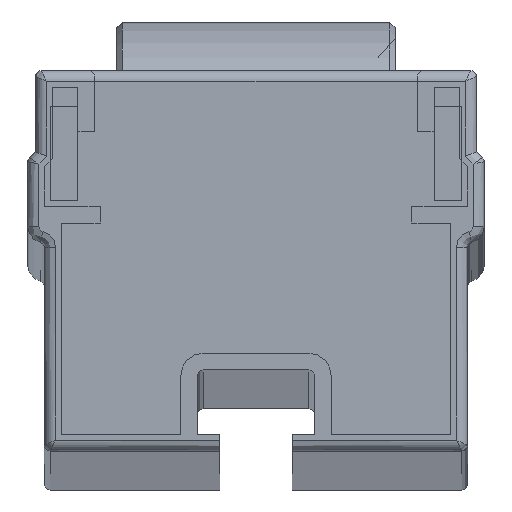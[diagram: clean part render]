
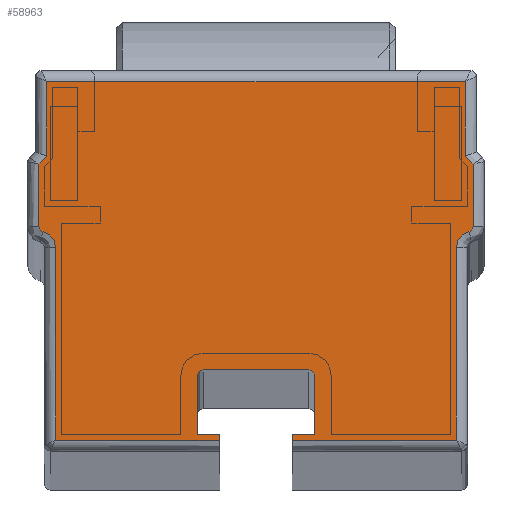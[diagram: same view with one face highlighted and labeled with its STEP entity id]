
A CAD part, top view. The second image highlights one B-rep face of the part: STEP entity #58963.
In plain terms, the highlighted planar face has unit normal (0, 0, 1).
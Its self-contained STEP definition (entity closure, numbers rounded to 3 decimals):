
#1156=CIRCLE('',#62720,1.5);
#1159=CIRCLE('',#62723,0.5);
#1165=CIRCLE('',#62746,0.5);
#1168=CIRCLE('',#62750,1.5);
#1172=CIRCLE('',#62760,0.5);
#1173=CIRCLE('',#62761,0.5);
#6495=FACE_OUTER_BOUND('',#10079,.T.);
#10079=EDGE_LOOP('',(#39628,#39629,#39630,#39631,#39632,#39633,#39634,#39635,
#39636,#39637,#39638,#39639,#39640,#39641,#39642,#39643,#39644,#39645,#39646,
#39647,#39648,#39649,#39650,#39651));
#13993=LINE('',#90693,#19131);
#13996=LINE('',#90702,#19134);
#13997=LINE('',#90724,#19135);
#13999=LINE('',#90798,#19137);
#14002=LINE('',#90804,#19140);
#14003=LINE('',#90806,#19141);
#14005=LINE('',#90810,#19143);
#14008=LINE('',#90816,#19146);
#14010=LINE('',#90822,#19148);
#14011=LINE('',#90844,#19149);
#14014=LINE('',#90851,#19152);
#14019=LINE('',#90864,#19157);
#14022=LINE('',#90870,#19160);
#14023=LINE('',#90872,#19161);
#14024=LINE('',#90874,#19162);
#14025=LINE('',#90878,#19163);
#14026=LINE('',#90882,#19164);
#14027=LINE('',#90883,#19165);
#19131=VECTOR('',#70468,10.);
#19134=VECTOR('',#70477,10.);
#19135=VECTOR('',#70494,10.);
#19137=VECTOR('',#70518,10.);
#19140=VECTOR('',#70525,10.);
#19141=VECTOR('',#70528,10.);
#19143=VECTOR('',#70532,10.);
#19146=VECTOR('',#70539,10.);
#19148=VECTOR('',#70545,10.);
#19149=VECTOR('',#70562,10.);
#19152=VECTOR('',#70569,10.);
#19157=VECTOR('',#70582,10.);
#19160=VECTOR('',#70587,10.);
#19161=VECTOR('',#70588,10.);
#19162=VECTOR('',#70589,10.);
#19163=VECTOR('',#70592,10.);
#19164=VECTOR('',#70595,10.);
#19165=VECTOR('',#70596,10.);
#24241=VERTEX_POINT('',#90597);
#24245=VERTEX_POINT('',#90625);
#24248=VERTEX_POINT('',#90651);
#24252=VERTEX_POINT('',#90684);
#24255=VERTEX_POINT('',#90692);
#24258=VERTEX_POINT('',#90700);
#24260=VERTEX_POINT('',#90705);
#24262=VERTEX_POINT('',#90719);
#24265=VERTEX_POINT('',#90754);
#24270=VERTEX_POINT('',#90789);
#24273=VERTEX_POINT('',#90797);
#24275=VERTEX_POINT('',#90809);
#24278=VERTEX_POINT('',#90820);
#24280=VERTEX_POINT('',#90833);
#24282=VERTEX_POINT('',#90839);
#24284=VERTEX_POINT('',#90849);
#24288=VERTEX_POINT('',#90863);
#24290=VERTEX_POINT('',#90869);
#24291=VERTEX_POINT('',#90871);
#24292=VERTEX_POINT('',#90873);
#24293=VERTEX_POINT('',#90875);
#24294=VERTEX_POINT('',#90877);
#24295=VERTEX_POINT('',#90879);
#24296=VERTEX_POINT('',#90881);
#30297=EDGE_CURVE('',#24252,#24255,#13993,.T.);
#30302=EDGE_CURVE('',#24258,#24252,#13996,.T.);
#30304=EDGE_CURVE('',#24260,#24258,#1156,.T.);
#30307=EDGE_CURVE('',#24262,#24260,#1159,.T.);
#30309=EDGE_CURVE('',#24248,#24262,#13997,.T.);
#30321=EDGE_CURVE('',#24270,#24273,#13999,.T.);
#30325=EDGE_CURVE('',#24273,#24248,#14002,.T.);
#30326=EDGE_CURVE('',#24265,#24270,#14003,.T.);
#30328=EDGE_CURVE('',#24245,#24275,#14005,.T.);
#30332=EDGE_CURVE('',#24275,#24265,#14008,.T.);
#30335=EDGE_CURVE('',#24278,#24245,#14010,.T.);
#30337=EDGE_CURVE('',#24280,#24278,#1165,.T.);
#30340=EDGE_CURVE('',#24282,#24280,#1168,.T.);
#30342=EDGE_CURVE('',#24241,#24282,#14011,.T.);
#30346=EDGE_CURVE('',#24284,#24241,#14014,.T.);
#30352=EDGE_CURVE('',#24288,#24255,#14019,.T.);
#30355=EDGE_CURVE('',#24284,#24290,#14022,.T.);
#30356=EDGE_CURVE('',#24290,#24291,#14023,.T.);
#30357=EDGE_CURVE('',#24291,#24292,#14024,.T.);
#30358=EDGE_CURVE('',#24292,#24293,#1172,.T.);
#30359=EDGE_CURVE('',#24293,#24294,#14025,.T.);
#30360=EDGE_CURVE('',#24294,#24295,#1173,.T.);
#30361=EDGE_CURVE('',#24295,#24296,#14026,.T.);
#30362=EDGE_CURVE('',#24296,#24288,#14027,.T.);
#39628=ORIENTED_EDGE('',*,*,#30297,.F.);
#39629=ORIENTED_EDGE('',*,*,#30302,.F.);
#39630=ORIENTED_EDGE('',*,*,#30304,.F.);
#39631=ORIENTED_EDGE('',*,*,#30307,.F.);
#39632=ORIENTED_EDGE('',*,*,#30309,.F.);
#39633=ORIENTED_EDGE('',*,*,#30325,.F.);
#39634=ORIENTED_EDGE('',*,*,#30321,.F.);
#39635=ORIENTED_EDGE('',*,*,#30326,.F.);
#39636=ORIENTED_EDGE('',*,*,#30332,.F.);
#39637=ORIENTED_EDGE('',*,*,#30328,.F.);
#39638=ORIENTED_EDGE('',*,*,#30335,.F.);
#39639=ORIENTED_EDGE('',*,*,#30337,.F.);
#39640=ORIENTED_EDGE('',*,*,#30340,.F.);
#39641=ORIENTED_EDGE('',*,*,#30342,.F.);
#39642=ORIENTED_EDGE('',*,*,#30346,.F.);
#39643=ORIENTED_EDGE('',*,*,#30355,.T.);
#39644=ORIENTED_EDGE('',*,*,#30356,.T.);
#39645=ORIENTED_EDGE('',*,*,#30357,.T.);
#39646=ORIENTED_EDGE('',*,*,#30358,.T.);
#39647=ORIENTED_EDGE('',*,*,#30359,.T.);
#39648=ORIENTED_EDGE('',*,*,#30360,.T.);
#39649=ORIENTED_EDGE('',*,*,#30361,.T.);
#39650=ORIENTED_EDGE('',*,*,#30362,.T.);
#39651=ORIENTED_EDGE('',*,*,#30352,.T.);
#57307=PLANE('',#62759);
#58963=ADVANCED_FACE('',(#6495),#57307,.T.);
#62720=AXIS2_PLACEMENT_3D('',#90707,#70482,#70483);
#62723=AXIS2_PLACEMENT_3D('',#90721,#70488,#70489);
#62746=AXIS2_PLACEMENT_3D('',#90835,#70548,#70549);
#62750=AXIS2_PLACEMENT_3D('',#90841,#70556,#70557);
#62759=AXIS2_PLACEMENT_3D('',#90868,#70585,#70586);
#62760=AXIS2_PLACEMENT_3D('',#90876,#70590,#70591);
#62761=AXIS2_PLACEMENT_3D('',#90880,#70593,#70594);
#70468=DIRECTION('',(-1.,0.,0.));
#70477=DIRECTION('',(0.,-1.,0.));
#70482=DIRECTION('center_axis',(0.,0.,1.));
#70483=DIRECTION('ref_axis',(-0.791,0.612,0.));
#70488=DIRECTION('center_axis',(0.,0.,-1.));
#70489=DIRECTION('ref_axis',(0.791,-0.612,0.));
#70494=DIRECTION('',(0.,-1.,0.));
#70518=DIRECTION('',(0.,-1.,0.));
#70525=DIRECTION('',(0.707,-0.707,0.));
#70528=DIRECTION('',(1.,0.,0.));
#70532=DIRECTION('',(0.707,0.707,0.));
#70539=DIRECTION('',(0.,1.,0.));
#70545=DIRECTION('',(0.,1.,0.));
#70548=DIRECTION('center_axis',(0.,0.,-1.));
#70549=DIRECTION('ref_axis',(-0.791,-0.612,0.));
#70556=DIRECTION('center_axis',(0.,0.,1.));
#70557=DIRECTION('ref_axis',(0.791,0.612,0.));
#70562=DIRECTION('',(0.,1.,0.));
#70569=DIRECTION('',(-1.,0.,0.));
#70582=DIRECTION('',(0.,-1.,0.));
#70585=DIRECTION('center_axis',(0.,0.,1.));
#70586=DIRECTION('ref_axis',(1.,0.,0.));
#70587=DIRECTION('',(0.,1.,0.));
#70588=DIRECTION('',(-1.,0.,0.));
#70589=DIRECTION('',(0.,1.,0.));
#70590=DIRECTION('center_axis',(0.,0.,-1.));
#70591=DIRECTION('ref_axis',(0.,1.,0.));
#70592=DIRECTION('',(1.,0.,0.));
#70593=DIRECTION('center_axis',(0.,0.,-1.));
#70594=DIRECTION('ref_axis',(1.,0.,0.));
#70595=DIRECTION('',(0.,-1.,0.));
#70596=DIRECTION('',(-1.,0.,0.));
#90597=CARTESIAN_POINT('',(-20.764,-17.118,1000.));
#90625=CARTESIAN_POINT('',(-22.264,7.667,1000.));
#90651=CARTESIAN_POINT('',(16.736,7.667,1000.));
#90684=CARTESIAN_POINT('',(15.236,-17.118,1000.));
#90692=CARTESIAN_POINT('',(0.486,-17.118,1000.));
#90693=CARTESIAN_POINT('',(-1.139,-17.118,1000.));
#90700=CARTESIAN_POINT('',(15.236,0.145,1000.));
#90702=CARTESIAN_POINT('',(15.236,-9.955,1000.));
#90705=CARTESIAN_POINT('',(16.361,1.598,1000.));
#90707=CARTESIAN_POINT('Origin',(16.736,0.145,1000.));
#90719=CARTESIAN_POINT('',(16.736,2.082,1000.));
#90721=CARTESIAN_POINT('Origin',(16.236,2.082,1000.));
#90724=CARTESIAN_POINT('',(16.736,-0.105,1000.));
#90754=CARTESIAN_POINT('',(-21.564,15.082,1000.));
#90789=CARTESIAN_POINT('',(16.036,15.082,1000.));
#90797=CARTESIAN_POINT('',(16.036,8.367,1000.));
#90798=CARTESIAN_POINT('',(16.036,3.245,1000.));
#90804=CARTESIAN_POINT('',(14.424,9.98,1000.));
#90806=CARTESIAN_POINT('',(6.886,15.082,1000.));
#90809=CARTESIAN_POINT('',(-21.564,8.367,1000.));
#90810=CARTESIAN_POINT('',(-19.675,10.256,1000.));
#90816=CARTESIAN_POINT('',(-21.564,6.645,1000.));
#90820=CARTESIAN_POINT('',(-22.264,2.082,1000.));
#90822=CARTESIAN_POINT('',(-22.264,2.792,1000.));
#90833=CARTESIAN_POINT('',(-21.889,1.598,1000.));
#90835=CARTESIAN_POINT('Origin',(-21.764,2.082,1000.));
#90839=CARTESIAN_POINT('',(-20.764,0.145,1000.));
#90841=CARTESIAN_POINT('Origin',(-22.264,0.145,1000.));
#90844=CARTESIAN_POINT('',(-20.764,-1.073,1000.));
#90849=CARTESIAN_POINT('',(-6.014,-17.118,1000.));
#90851=CARTESIAN_POINT('',(-12.014,-17.118,1000.));
#90863=CARTESIAN_POINT('',(0.486,-16.618,1000.));
#90864=CARTESIAN_POINT('',(0.486,-18.118,1000.));
#90868=CARTESIAN_POINT('Origin',(-2.764,-2.291,1000.));
#90869=CARTESIAN_POINT('',(-6.014,-16.618,1000.));
#90870=CARTESIAN_POINT('',(-6.014,-16.618,1000.));
#90871=CARTESIAN_POINT('',(-8.014,-16.618,1000.));
#90872=CARTESIAN_POINT('',(-8.014,-16.618,1000.));
#90873=CARTESIAN_POINT('',(-8.014,-11.318,1000.));
#90874=CARTESIAN_POINT('',(-8.014,-11.318,1000.));
#90875=CARTESIAN_POINT('',(-7.514,-10.818,1000.));
#90876=CARTESIAN_POINT('Origin',(-7.514,-11.318,1000.));
#90877=CARTESIAN_POINT('',(1.986,-10.818,1000.));
#90878=CARTESIAN_POINT('',(1.986,-10.818,1000.));
#90879=CARTESIAN_POINT('',(2.486,-11.318,1000.));
#90880=CARTESIAN_POINT('Origin',(1.986,-11.318,1000.));
#90881=CARTESIAN_POINT('',(2.486,-16.618,1000.));
#90882=CARTESIAN_POINT('',(2.486,-16.618,1000.));
#90883=CARTESIAN_POINT('',(0.486,-16.618,1000.));
